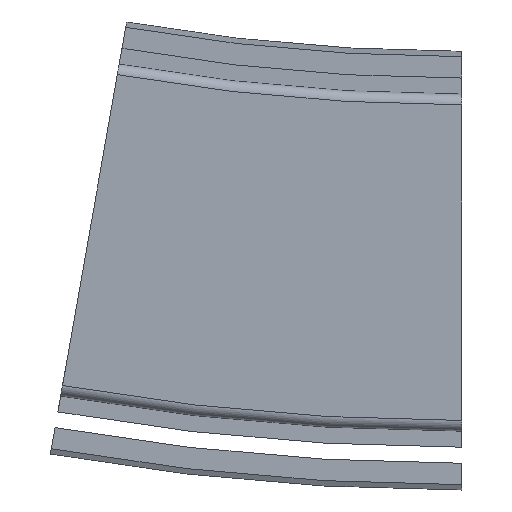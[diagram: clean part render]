
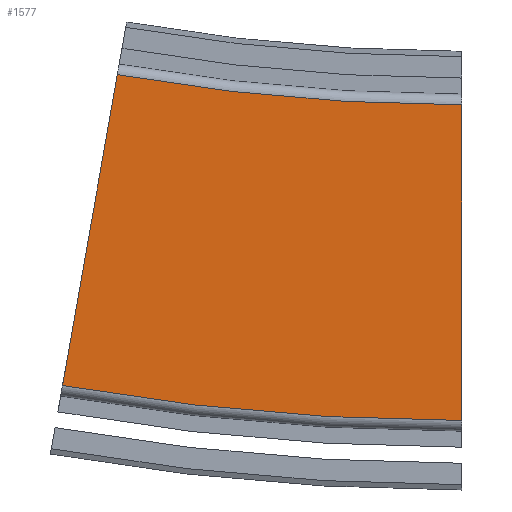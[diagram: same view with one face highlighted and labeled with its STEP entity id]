
A CAD part, left-side view. The second image highlights one B-rep face of the part: STEP entity #1577.
In plain terms, the highlighted planar face has unit normal (-1, 0, 0).
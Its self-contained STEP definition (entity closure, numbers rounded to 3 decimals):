
#126=PLANE('',#1712);
#200=FACE_OUTER_BOUND('',#292,.T.);
#292=EDGE_LOOP('',(#1300,#1301,#1302,#1303));
#360=CIRCLE('',#1711,370.5);
#361=CIRCLE('',#1713,429.5);
#464=LINE('',#7158,#590);
#465=LINE('',#7160,#591);
#590=VECTOR('',#2010,10.);
#591=VECTOR('',#2011,10.);
#750=VERTEX_POINT('',#7151);
#751=VERTEX_POINT('',#7153);
#752=VERTEX_POINT('',#7157);
#753=VERTEX_POINT('',#7159);
#950=EDGE_CURVE('',#750,#751,#360,.T.);
#951=EDGE_CURVE('',#752,#750,#464,.T.);
#952=EDGE_CURVE('',#753,#751,#465,.T.);
#953=EDGE_CURVE('',#752,#753,#361,.T.);
#1300=ORIENTED_EDGE('',*,*,#951,.T.);
#1301=ORIENTED_EDGE('',*,*,#950,.T.);
#1302=ORIENTED_EDGE('',*,*,#952,.F.);
#1303=ORIENTED_EDGE('',*,*,#953,.F.);
#1577=ADVANCED_FACE('',(#200),#126,.T.);
#1711=AXIS2_PLACEMENT_3D('',#7155,#2006,#2007);
#1712=AXIS2_PLACEMENT_3D('',#7156,#2008,#2009);
#1713=AXIS2_PLACEMENT_3D('',#7161,#2012,#2013);
#2006=DIRECTION('center_axis',(1.,0.,0.));
#2007=DIRECTION('ref_axis',(0.,0.,-1.));
#2008=DIRECTION('center_axis',(-1.,0.,0.));
#2009=DIRECTION('ref_axis',(0.,0.,1.));
#2010=DIRECTION('',(0.,0.,1.));
#2011=DIRECTION('',(0.,-0.174,0.985));
#2012=DIRECTION('center_axis',(1.,0.,0.));
#2013=DIRECTION('ref_axis',(0.,0.,-1.));
#7151=CARTESIAN_POINT('',(-43.,0.,29.5));
#7153=CARTESIAN_POINT('',(-43.,64.337,35.129));
#7155=CARTESIAN_POINT('Origin',(-43.,0.,400.));
#7156=CARTESIAN_POINT('Origin',(-43.,0.,-29.5));
#7157=CARTESIAN_POINT('',(-43.,0.,-29.5));
#7158=CARTESIAN_POINT('',(-43.,0.,-29.5));
#7159=CARTESIAN_POINT('',(-43.,74.582,-22.975));
#7160=CARTESIAN_POINT('',(-43.,74.582,-22.975));
#7161=CARTESIAN_POINT('Origin',(-43.,0.,400.));
